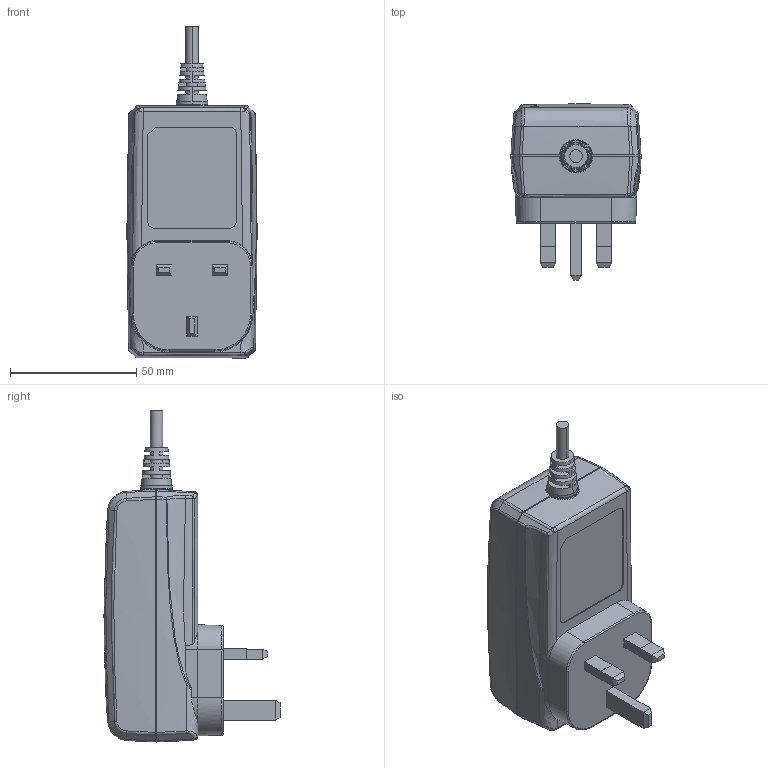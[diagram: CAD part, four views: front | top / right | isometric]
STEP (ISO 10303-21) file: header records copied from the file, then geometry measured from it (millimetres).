
FILE_DESCRIPTION(/* description */ (''),/* implementation_level */ '2;1');
FILE_NAME(/* name */ 'TP7_英規',/* time_stamp */ '2015-03-02T17:47:47+08:00',/* author */ (''),/* organization */ (''),/* preprocessor_version */ 'ST-DEVELOPER v15',/* originating_system */ '',/* authorisation */ '');
FILE_SCHEMA (('AUTOMOTIVE_DESIGN_CC2'));
Length unit declared in the file: millimetre
Products named in the file (1): Document
Bounding box: 51.56 x 69.7 x 131.42 mm (x, y, z)
Volume: 1717.5 mm3; surface area: 33585.3 mm2
Topology: 1 solids, 9 shells, 457 faces, 1194 edges, 760 vertices
Faces by surface type: bspline 457
Entity records: 91989 total; most frequent: CARTESIAN_POINT 76788, B_SPLINE_CURVE_WITH_KNOTS 3221, ORIENTED_EDGE 2323, PCURVE 2323, DEFINITIONAL_REPRESENTATION 2323, SURFACE_CURVE 1184, EDGE_CURVE 1184, VERTEX_POINT 760
